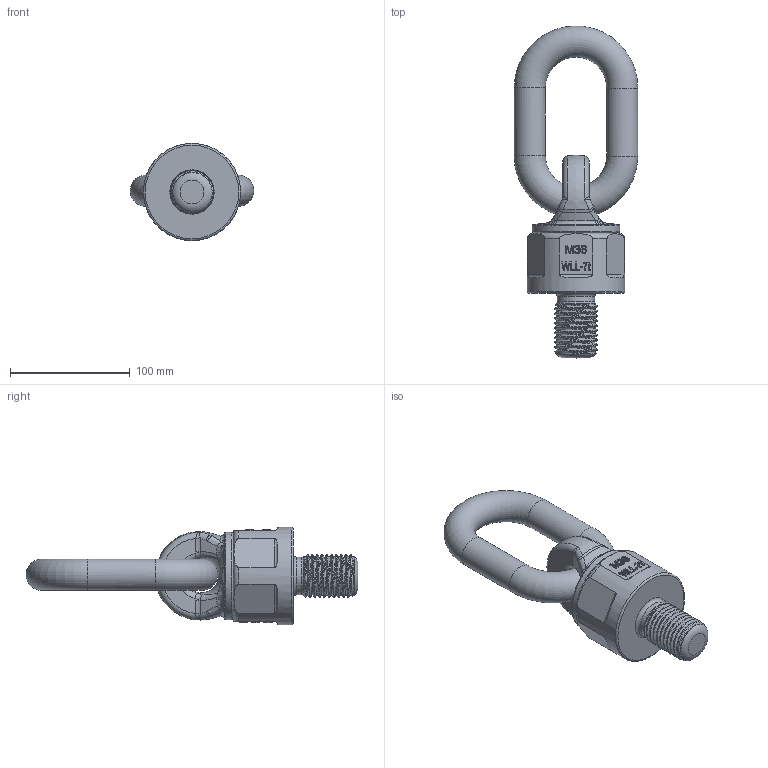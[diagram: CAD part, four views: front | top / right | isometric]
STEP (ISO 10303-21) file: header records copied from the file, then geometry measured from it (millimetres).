
FILE_DESCRIPTION(/* description */ (''),/* implementation_level */ '2;1');
FILE_NAME(/* name */ 'YTJ-M36.stp',/* time_stamp */ '2025-04-02T11:21:53+08:00',/* author */ (''),/* organization */ (''),/* preprocessor_version */ 'ST-DEVELOPER v16',/* originating_system */ 'SIEMENS PLM Software NX 10.0',/* authorisation */ '');
FILE_SCHEMA (('AP203_CONFIGURATION_CONTROLLED_3D_DESIGN_OF_MECHANICAL_PARTS_AND_ASSEMBLIES_MIM_LF { 1 0 10303 403 2 1 2}'));
Length unit declared in the file: millimetre
Products named in the file (1): Admi177C9AD32i8v
Bounding box: 103 x 276.86 x 81 mm (x, y, z)
Volume: 586002.2 mm3; surface area: 86449.6 mm2
Topology: 3 solids, 3 shells, 352 faces, 878 edges, 542 vertices
Faces by surface type: plane 132, bspline 104, extrusion 57, torus 32, cylinder 23, cone 3, sphere 1
Full cylindrical faces by diameter (mm): 26 x2, 31 x1, 42 x1, 42.8 x1, 73 x1, 81 x1
Entity records: 15102 total; most frequent: CARTESIAN_POINT 7836, ORIENTED_EDGE 1674, DIRECTION 1117, EDGE_CURVE 837, VERTEX_POINT 531, B_SPLINE_CURVE_WITH_KNOTS 417, EDGE_LOOP 394, AXIS2_PLACEMENT_3D 392
